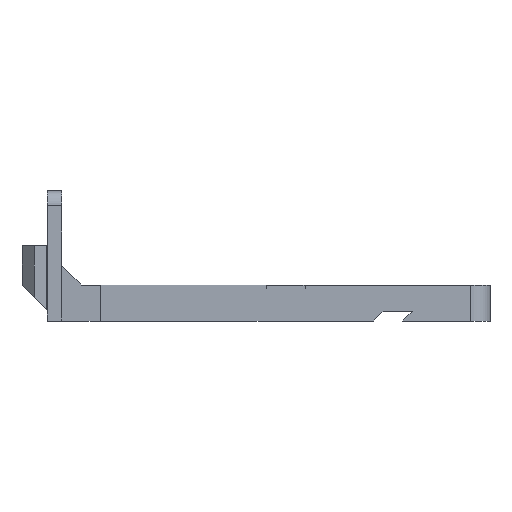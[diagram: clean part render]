
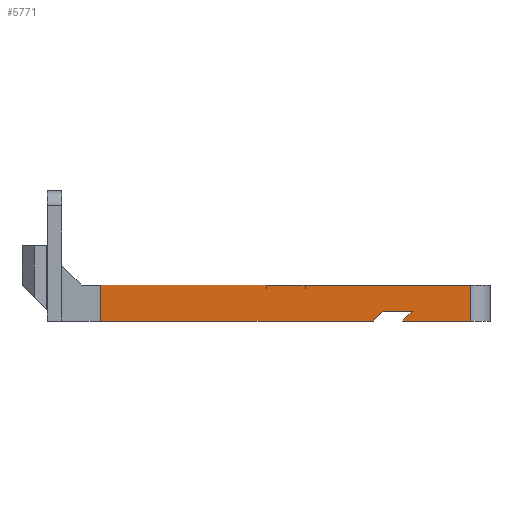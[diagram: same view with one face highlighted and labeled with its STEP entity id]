
A CAD part, front view. The second image highlights one B-rep face of the part: STEP entity #5771.
In plain terms, the highlighted planar face has unit normal (0, -1, 0).
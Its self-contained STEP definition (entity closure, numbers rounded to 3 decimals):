
#301=FACE_OUTER_BOUND('',#696,.T.);
#696=EDGE_LOOP('',(#3986,#3987,#3988,#3989,#3990,#3991,#3992,#3993,#3994,
#3995,#3996,#3997));
#1324=LINE('',#8683,#1903);
#1363=LINE('',#8922,#1942);
#1366=LINE('',#8928,#1945);
#1369=LINE('',#8934,#1948);
#1370=LINE('',#8937,#1949);
#1371=LINE('',#8939,#1950);
#1372=LINE('',#8941,#1951);
#1373=LINE('',#8943,#1952);
#1374=LINE('',#8945,#1953);
#1375=LINE('',#8947,#1954);
#1376=LINE('',#8949,#1955);
#1377=LINE('',#8950,#1956);
#1903=VECTOR('',#6782,10.);
#1942=VECTOR('',#7081,10.);
#1945=VECTOR('',#7086,10.);
#1948=VECTOR('',#7091,10.);
#1949=VECTOR('',#7094,10.);
#1950=VECTOR('',#7095,10.);
#1951=VECTOR('',#7096,10.);
#1952=VECTOR('',#7097,10.);
#1953=VECTOR('',#7098,10.);
#1954=VECTOR('',#7099,10.);
#1955=VECTOR('',#7100,10.);
#1956=VECTOR('',#7101,10.);
#2483=VERTEX_POINT('',#8680);
#2484=VERTEX_POINT('',#8682);
#2554=VERTEX_POINT('',#8920);
#2556=VERTEX_POINT('',#8926);
#2558=VERTEX_POINT('',#8932);
#2559=VERTEX_POINT('',#8936);
#2560=VERTEX_POINT('',#8938);
#2561=VERTEX_POINT('',#8940);
#2562=VERTEX_POINT('',#8942);
#2563=VERTEX_POINT('',#8944);
#2564=VERTEX_POINT('',#8946);
#2565=VERTEX_POINT('',#8948);
#2967=EDGE_CURVE('',#2483,#2484,#1324,.T.);
#3071=EDGE_CURVE('',#2483,#2554,#1363,.T.);
#3074=EDGE_CURVE('',#2554,#2556,#1366,.T.);
#3077=EDGE_CURVE('',#2556,#2558,#1369,.T.);
#3078=EDGE_CURVE('',#2559,#2558,#1370,.T.);
#3079=EDGE_CURVE('',#2560,#2559,#1371,.T.);
#3080=EDGE_CURVE('',#2560,#2561,#1372,.F.);
#3081=EDGE_CURVE('',#2561,#2562,#1373,.T.);
#3082=EDGE_CURVE('',#2563,#2562,#1374,.T.);
#3083=EDGE_CURVE('',#2564,#2563,#1375,.T.);
#3084=EDGE_CURVE('',#2564,#2565,#1376,.F.);
#3085=EDGE_CURVE('',#2565,#2484,#1377,.T.);
#3986=ORIENTED_EDGE('',*,*,#3071,.T.);
#3987=ORIENTED_EDGE('',*,*,#3074,.T.);
#3988=ORIENTED_EDGE('',*,*,#3077,.T.);
#3989=ORIENTED_EDGE('',*,*,#3078,.F.);
#3990=ORIENTED_EDGE('',*,*,#3079,.F.);
#3991=ORIENTED_EDGE('',*,*,#3080,.T.);
#3992=ORIENTED_EDGE('',*,*,#3081,.T.);
#3993=ORIENTED_EDGE('',*,*,#3082,.F.);
#3994=ORIENTED_EDGE('',*,*,#3083,.F.);
#3995=ORIENTED_EDGE('',*,*,#3084,.T.);
#3996=ORIENTED_EDGE('',*,*,#3085,.T.);
#3997=ORIENTED_EDGE('',*,*,#2967,.F.);
#5522=PLANE('',#6247);
#5771=ADVANCED_FACE('',(#301),#5522,.T.);
#6247=AXIS2_PLACEMENT_3D('',#8935,#7092,#7093);
#6782=DIRECTION('',(-1.,0.,0.));
#7081=DIRECTION('',(0.707,0.,0.707));
#7086=DIRECTION('',(1.,0.,0.));
#7091=DIRECTION('',(-0.707,0.,-0.707));
#7092=DIRECTION('center_axis',(0.,-1.,0.));
#7093=DIRECTION('ref_axis',(1.,0.,0.));
#7094=DIRECTION('',(-1.,0.,0.));
#7095=DIRECTION('',(0.,0.,-1.));
#7096=DIRECTION('',(1.,0.,0.));
#7097=DIRECTION('',(0.,0.,-1.));
#7098=DIRECTION('',(1.,0.,0.));
#7099=DIRECTION('',(0.,0.,-1.));
#7100=DIRECTION('',(1.,0.,0.));
#7101=DIRECTION('',(0.,0.,-1.));
#8680=CARTESIAN_POINT('',(163.172,-21.,-114.478));
#8682=CARTESIAN_POINT('',(107.15,-21.,-114.478));
#8683=CARTESIAN_POINT('',(183.15,-21.,-114.478));
#8920=CARTESIAN_POINT('',(165.172,-21.,-112.478));
#8922=CARTESIAN_POINT('',(149.055,-21.,-128.595));
#8926=CARTESIAN_POINT('',(171.172,-21.,-112.478));
#8928=CARTESIAN_POINT('',(134.361,-21.,-112.478));
#8932=CARTESIAN_POINT('',(169.172,-21.,-114.478));
#8934=CARTESIAN_POINT('',(154.555,-21.,-129.095));
#8935=CARTESIAN_POINT('Origin',(103.15,-21.,-111.724));
#8936=CARTESIAN_POINT('',(183.15,-21.,-114.478));
#8937=CARTESIAN_POINT('',(183.15,-21.,-114.478));
#8938=CARTESIAN_POINT('',(183.15,-21.,-107.078));
#8939=CARTESIAN_POINT('',(183.15,-21.,-111.724));
#8940=CARTESIAN_POINT('',(149.15,-21.,-107.078));
#8941=CARTESIAN_POINT('',(164.15,-21.,-107.078));
#8942=CARTESIAN_POINT('',(149.15,-21.,-107.078));
#8943=CARTESIAN_POINT('',(149.15,-21.,-111.724));
#8944=CARTESIAN_POINT('',(141.15,-21.,-107.078));
#8945=CARTESIAN_POINT('',(183.15,-21.,-107.078));
#8946=CARTESIAN_POINT('',(141.15,-21.,-107.078));
#8947=CARTESIAN_POINT('',(141.15,-21.,-111.724));
#8948=CARTESIAN_POINT('',(107.15,-21.,-107.078));
#8949=CARTESIAN_POINT('',(122.15,-21.,-107.078));
#8950=CARTESIAN_POINT('',(107.15,-21.,-111.724));
